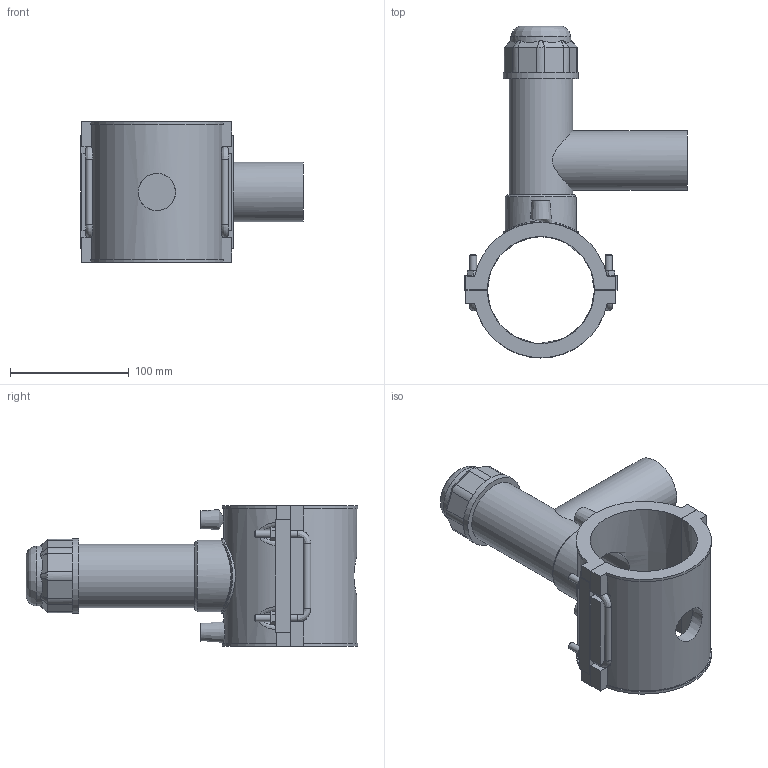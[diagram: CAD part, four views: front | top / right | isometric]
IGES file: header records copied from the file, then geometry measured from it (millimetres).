
Global section: file name: 496304090050.ipt; native system: Autodesk Inventor 2015; preprocessor: unknown; author: KIM; date: 20190124.130759; units: millimetre
Bounding box: 187 x 278.92 x 118 mm (x, y, z)
Volume: 715991.6 mm3; surface area: 179544.5 mm2
Topology: 2 solids, 4 shells, 228 faces, 571 edges, 367 vertices
Faces by surface type: plane 126, cylinder 38, revolution 28, bspline 21, cone 15
Full cylindrical faces by diameter (mm): 4 x2, 6 x8, 50 x1, 50.4 x1, 53.55 x1, 59.85 x1, 63 x2
